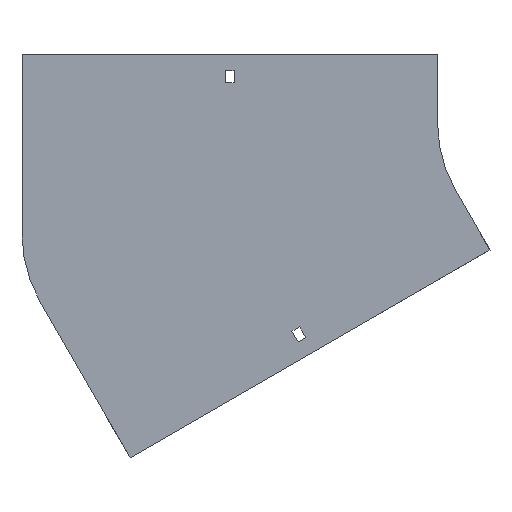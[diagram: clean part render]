
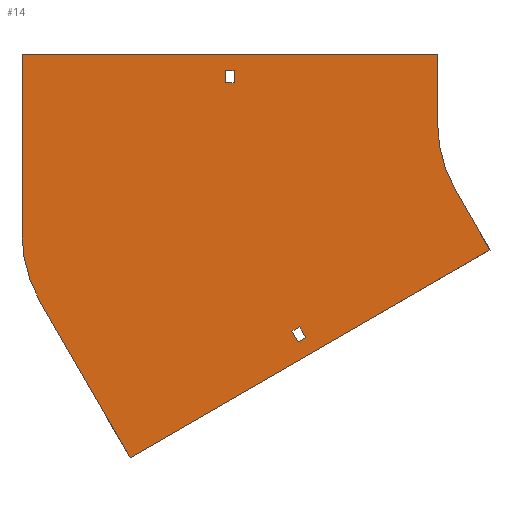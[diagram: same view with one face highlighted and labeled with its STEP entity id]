
A CAD part, front view. The second image highlights one B-rep face of the part: STEP entity #14.
In plain terms, the highlighted planar face has unit normal (0, -1, 0).
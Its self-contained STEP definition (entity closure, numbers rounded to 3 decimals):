
#14 = ADVANCED_FACE ( 'NONE', ( #757, #1201, #1340 ), #1018, .T. ) ;
#22 = CARTESIAN_POINT ( 'NONE',  ( -404., 0., -81.457 ) ) ;
#51 = VERTEX_POINT ( 'NONE', #1269 ) ;
#67 = VECTOR ( 'NONE', #1571, 1000. ) ;
#121 = CARTESIAN_POINT ( 'NONE',  ( -248.75, 0., 29. ) ) ;
#133 = CARTESIAN_POINT ( 'NONE',  ( -404., 0., 50. ) ) ;
#134 = LINE ( 'NONE', #1949, #482 ) ;
#142 = EDGE_CURVE ( 'NONE', #840, #617, #134, .T. ) ;
#145 = EDGE_CURVE ( 'NONE', #625, #394, #1348, .T. ) ;
#174 = VECTOR ( 'NONE', #299, 1000. ) ;
#225 = ORIENTED_EDGE ( 'NONE', *, *, #145, .F. ) ;
#234 = VECTOR ( 'NONE', #429, 1000. ) ;
#252 = EDGE_CURVE ( 'NONE', #725, #370, #1617, .T. ) ;
#268 = EDGE_CURVE ( 'NONE', #1845, #382, #764, .T. ) ;
#270 = EDGE_LOOP ( 'NONE', ( #682, #784, #1114, #968 ) ) ;
#298 = CARTESIAN_POINT ( 'NONE',  ( -196.424, 0., -157.284 ) ) ;
#299 = DIRECTION ( 'NONE',  ( 1., 0., 0. ) ) ;
#300 = DIRECTION ( 'NONE',  ( 0., 0., -1. ) ) ;
#301 = VERTEX_POINT ( 'NONE', #502 ) ;
#316 = VECTOR ( 'NONE', #1811, 1000. ) ;
#322 = VECTOR ( 'NONE', #742, 1000. ) ;
#345 = CARTESIAN_POINT ( 'NONE',  ( -200.924, 0., -149.49 ) ) ;
#346 = LINE ( 'NONE', #1525, #316 ) ;
#358 = CARTESIAN_POINT ( 'NONE',  ( -206.553, 0., -152.74 ) ) ;
#370 = VERTEX_POINT ( 'NONE', #1381 ) ;
#382 = VERTEX_POINT ( 'NONE', #1856 ) ;
#394 = VERTEX_POINT ( 'NONE', #345 ) ;
#405 = CARTESIAN_POINT ( 'NONE',  ( -206.553, 0., -152.74 ) ) ;
#424 = EDGE_LOOP ( 'NONE', ( #1257, #1299, #1657, #225 ) ) ;
#429 = DIRECTION ( 'NONE',  ( 0.5, 0., -0.866 ) ) ;
#431 = ORIENTED_EDGE ( 'NONE', *, *, #1523, .F. ) ;
#480 = VECTOR ( 'NONE', #994, 1000. ) ;
#482 = VECTOR ( 'NONE', #1930, 1000. ) ;
#484 = EDGE_CURVE ( 'NONE', #1939, #1830, #1119, .T. ) ;
#499 = LINE ( 'NONE', #955, #940 ) ;
#502 = CARTESIAN_POINT ( 'NONE',  ( -86.603, 0., -50. ) ) ;
#515 = VERTEX_POINT ( 'NONE', #1903 ) ;
#574 = DIRECTION ( 'NONE',  ( 0., 0., -1. ) ) ;
#587 = CARTESIAN_POINT ( 'NONE',  ( -200.924, 0., -149.49 ) ) ;
#591 = CARTESIAN_POINT ( 'NONE',  ( -304., 0., -81.457 ) ) ;
#593 = CARTESIAN_POINT ( 'NONE',  ( -324.874, 0., -245.301 ) ) ;
#596 = VERTEX_POINT ( 'NONE', #593 ) ;
#601 = CARTESIAN_POINT ( 'NONE',  ( -86.603, 0., -50. ) ) ;
#604 = AXIS2_PLACEMENT_3D ( 'NONE', #1008, #879, #300 ) ;
#617 = VERTEX_POINT ( 'NONE', #1307 ) ;
#625 = VERTEX_POINT ( 'NONE', #298 ) ;
#668 = LINE ( 'NONE', #1262, #1573 ) ;
#672 = CARTESIAN_POINT ( 'NONE',  ( -100., 0., 50. ) ) ;
#682 = ORIENTED_EDGE ( 'NONE', *, *, #1298, .T. ) ;
#699 = EDGE_CURVE ( 'NONE', #515, #840, #1490, .T. ) ;
#720 = LINE ( 'NONE', #121, #1895 ) ;
#725 = VERTEX_POINT ( 'NONE', #1551 ) ;
#727 = VECTOR ( 'NONE', #1109, 1000. ) ;
#741 = CARTESIAN_POINT ( 'NONE',  ( -61.603, 0., -93.301 ) ) ;
#742 = DIRECTION ( 'NONE',  ( 1., 0., 0. ) ) ;
#749 = LINE ( 'NONE', #22, #1414 ) ;
#757 = FACE_BOUND ( 'NONE', #270, .T. ) ;
#764 = LINE ( 'NONE', #905, #234 ) ;
#766 = AXIS2_PLACEMENT_3D ( 'NONE', #1901, #819, #1575 ) ;
#784 = ORIENTED_EDGE ( 'NONE', *, *, #252, .T. ) ;
#816 = DIRECTION ( 'NONE',  ( -0.5, 0., 0.866 ) ) ;
#819 = DIRECTION ( 'NONE',  ( 0., -1., 0. ) ) ;
#837 = EDGE_CURVE ( 'NONE', #617, #301, #1129, .T. ) ;
#840 = VERTEX_POINT ( 'NONE', #672 ) ;
#841 = ORIENTED_EDGE ( 'NONE', *, *, #1594, .F. ) ;
#871 = ORIENTED_EDGE ( 'NONE', *, *, #947, .F. ) ;
#879 = DIRECTION ( 'NONE',  ( 0., -1., 0. ) ) ;
#880 = EDGE_LOOP ( 'NONE', ( #1915, #431, #1618, #958, #871, #841, #1127, #1085 ) ) ;
#905 = CARTESIAN_POINT ( 'NONE',  ( -206.553, 0., -152.74 ) ) ;
#940 = VECTOR ( 'NONE', #1558, 1000. ) ;
#947 = EDGE_CURVE ( 'NONE', #1013, #596, #1163, .T. ) ;
#955 = CARTESIAN_POINT ( 'NONE',  ( -255.25, 0., 29. ) ) ;
#958 = ORIENTED_EDGE ( 'NONE', *, *, #1674, .F. ) ;
#968 = ORIENTED_EDGE ( 'NONE', *, *, #484, .T. ) ;
#991 = EDGE_CURVE ( 'NONE', #370, #1939, #720, .T. ) ;
#994 = DIRECTION ( 'NONE',  ( -0.866, 0., -0.5 ) ) ;
#1008 = CARTESIAN_POINT ( 'NONE',  ( 0., 0., 0. ) ) ;
#1013 = VERTEX_POINT ( 'NONE', #1151 ) ;
#1018 = PLANE ( 'NONE',  #604 ) ;
#1041 = DIRECTION ( 'NONE',  ( 0., 0., 1. ) ) ;
#1062 = LINE ( 'NONE', #601, #1914 ) ;
#1085 = ORIENTED_EDGE ( 'NONE', *, *, #142, .F. ) ;
#1109 = DIRECTION ( 'NONE',  ( -0.866, 0., -0.5 ) ) ;
#1114 = ORIENTED_EDGE ( 'NONE', *, *, #991, .T. ) ;
#1119 = LINE ( 'NONE', #1280, #67 ) ;
#1127 = ORIENTED_EDGE ( 'NONE', *, *, #837, .F. ) ;
#1129 = CIRCLE ( 'NONE', #766, 100. ) ;
#1151 = CARTESIAN_POINT ( 'NONE',  ( -61.603, 0., -93.301 ) ) ;
#1159 = DIRECTION ( 'NONE',  ( 0., 1., 0. ) ) ;
#1163 = LINE ( 'NONE', #741, #480 ) ;
#1201 = FACE_OUTER_BOUND ( 'NONE', #880, .T. ) ;
#1257 = ORIENTED_EDGE ( 'NONE', *, *, #1504, .F. ) ;
#1262 = CARTESIAN_POINT ( 'NONE',  ( -324.874, 0., -245.301 ) ) ;
#1269 = CARTESIAN_POINT ( 'NONE',  ( -390.603, 0., -131.457 ) ) ;
#1280 = CARTESIAN_POINT ( 'NONE',  ( -255.25, 0., 29. ) ) ;
#1298 = EDGE_CURVE ( 'NONE', #1830, #725, #499, .T. ) ;
#1299 = ORIENTED_EDGE ( 'NONE', *, *, #268, .F. ) ;
#1307 = CARTESIAN_POINT ( 'NONE',  ( -100., 0., 0. ) ) ;
#1340 = FACE_BOUND ( 'NONE', #424, .T. ) ;
#1348 = LINE ( 'NONE', #587, #1581 ) ;
#1352 = AXIS2_PLACEMENT_3D ( 'NONE', #591, #1159, #1770 ) ;
#1381 = CARTESIAN_POINT ( 'NONE',  ( -248.75, 0., 38. ) ) ;
#1414 = VECTOR ( 'NONE', #1041, 1000. ) ;
#1444 = EDGE_CURVE ( 'NONE', #51, #1927, #1947, .T. ) ;
#1490 = LINE ( 'NONE', #133, #322 ) ;
#1504 = EDGE_CURVE ( 'NONE', #382, #625, #346, .T. ) ;
#1507 = DIRECTION ( 'NONE',  ( -0.5, 0., 0.866 ) ) ;
#1510 = CARTESIAN_POINT ( 'NONE',  ( -404., 0., -81.457 ) ) ;
#1523 = EDGE_CURVE ( 'NONE', #1927, #515, #749, .T. ) ;
#1525 = CARTESIAN_POINT ( 'NONE',  ( -202.053, 0., -160.534 ) ) ;
#1551 = CARTESIAN_POINT ( 'NONE',  ( -255.25, 0., 38. ) ) ;
#1558 = DIRECTION ( 'NONE',  ( 0., 0., 1. ) ) ;
#1571 = DIRECTION ( 'NONE',  ( -1., 0., 0. ) ) ;
#1573 = VECTOR ( 'NONE', #816, 1000. ) ;
#1575 = DIRECTION ( 'NONE',  ( 0., 0., -1. ) ) ;
#1581 = VECTOR ( 'NONE', #1507, 1000. ) ;
#1594 = EDGE_CURVE ( 'NONE', #301, #1013, #1062, .T. ) ;
#1617 = LINE ( 'NONE', #1646, #174 ) ;
#1618 = ORIENTED_EDGE ( 'NONE', *, *, #1444, .F. ) ;
#1646 = CARTESIAN_POINT ( 'NONE',  ( -255.25, 0., 38. ) ) ;
#1657 = ORIENTED_EDGE ( 'NONE', *, *, #1720, .F. ) ;
#1669 = DIRECTION ( 'NONE',  ( 0.5, 0., -0.866 ) ) ;
#1674 = EDGE_CURVE ( 'NONE', #596, #51, #668, .T. ) ;
#1720 = EDGE_CURVE ( 'NONE', #394, #1845, #1885, .T. ) ;
#1770 = DIRECTION ( 'NONE',  ( 0., 0., 1. ) ) ;
#1799 = CARTESIAN_POINT ( 'NONE',  ( -248.75, 0., 29. ) ) ;
#1811 = DIRECTION ( 'NONE',  ( 0.866, 0., 0.5 ) ) ;
#1830 = VERTEX_POINT ( 'NONE', #1923 ) ;
#1845 = VERTEX_POINT ( 'NONE', #405 ) ;
#1856 = CARTESIAN_POINT ( 'NONE',  ( -202.053, 0., -160.534 ) ) ;
#1885 = LINE ( 'NONE', #358, #727 ) ;
#1895 = VECTOR ( 'NONE', #574, 1000. ) ;
#1901 = CARTESIAN_POINT ( 'NONE',  ( 0., 0., 0. ) ) ;
#1903 = CARTESIAN_POINT ( 'NONE',  ( -404., 0., 50. ) ) ;
#1914 = VECTOR ( 'NONE', #1669, 1000. ) ;
#1915 = ORIENTED_EDGE ( 'NONE', *, *, #699, .F. ) ;
#1923 = CARTESIAN_POINT ( 'NONE',  ( -255.25, 0., 29. ) ) ;
#1927 = VERTEX_POINT ( 'NONE', #1510 ) ;
#1930 = DIRECTION ( 'NONE',  ( 0., 0., -1. ) ) ;
#1939 = VERTEX_POINT ( 'NONE', #1799 ) ;
#1947 = CIRCLE ( 'NONE', #1352, 100. ) ;
#1949 = CARTESIAN_POINT ( 'NONE',  ( -100., 0., 50. ) ) ;
